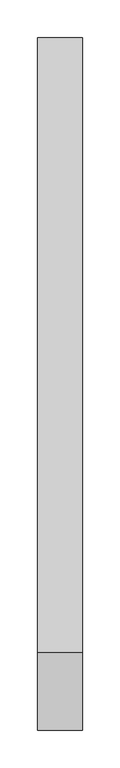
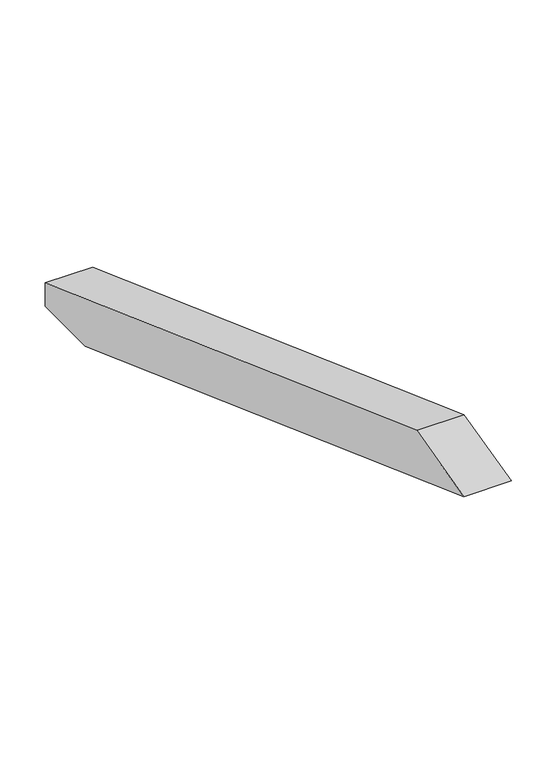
"""IFC4 building model written with IfcOpenShell, lengths in millimetres: proxy geometry, Modelos genéricos 152 : Modelos genéricos 14."""

from ifc_helpers import new_model, si_unit, frame, origin, place, context, project, spatial, polyline, outline, extrude, source, transform, mapped, element, save


def generic_models_f3fe7bdc(model_context):
    return source(origin(), model_context, "Body", "SweptSolid", [
        extrude(outline(polyline([(-422.9933771, 3463.5158927), (-318.8830723, 3489.473507), (498.6238165, 3191.9253332), (498.6238165, 3160.0), (410.9096845, 3160.0), (-422.9933771, 3463.5158927)])), frame((12873.4472467, 0.0, 0.0), z_axis=(1.0, 0.0, 0.0), x_axis=(0.0, 1.0, 0.0)), (0.0, 0.0, 1.0), 60.0),
    ])


if __name__ == "__main__":
    model = new_model("IFC4")
    model_context = context("Model", 3, world=origin())
    ifc_project = project(units=[si_unit("LENGTHUNIT", "METRE", prefix="MILLI")], contexts=[model_context])
    site = spatial("IfcSite", under=ifc_project)
    building = spatial("IfcBuilding", under=site)
    placement = place(None, origin())
    generic_models_shape = generic_models_f3fe7bdc(model_context)
    element("IfcBuildingElementProxy", 1, Name="Modelos genéricos 152 : Modelos genéricos 14", ObjectType="Modelos genéricos 152 : Modelos genéricos 14", at=placement, inside=building, context=model_context, shape_type="MappedRepresentation", body=[
        mapped(generic_models_shape, transform((0.0, 0.0, 0.0), x_axis=(1.0, 0.0, 0.0), y_axis=(0.0, 1.0, 0.0), z_axis=(0.0, 0.0, 1.0))),
    ])
    save(model, "model.ifc")
